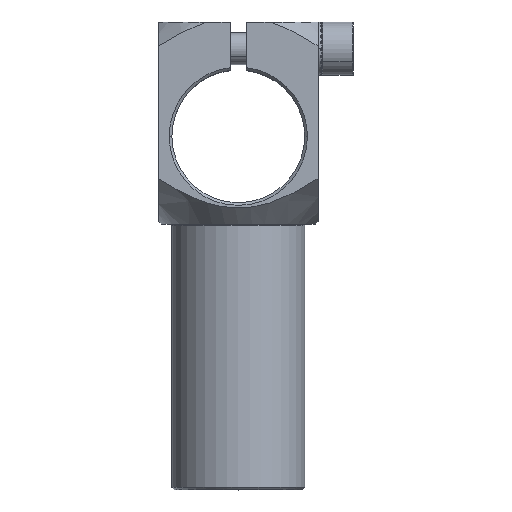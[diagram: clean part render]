
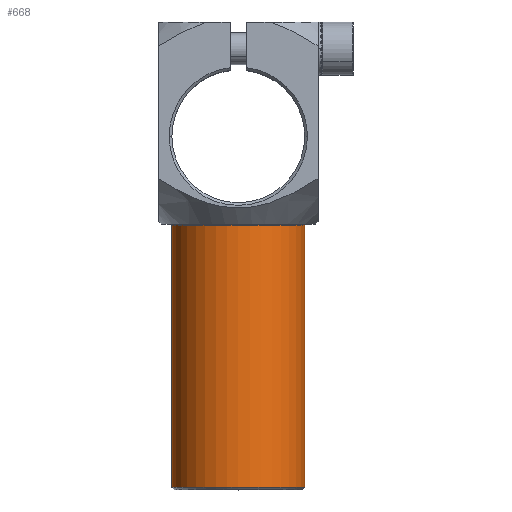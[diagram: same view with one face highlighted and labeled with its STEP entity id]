
A CAD part, top view. The second image highlights one B-rep face of the part: STEP entity #668.
In plain terms, the highlighted cylindrical face has radius 12.5 mm (diameter 25 mm), a partial arc.
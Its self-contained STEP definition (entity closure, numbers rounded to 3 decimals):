
#668 = ADVANCED_FACE ( 'NONE', ( #7207 ), #8938, .T. ) ;
#1168 = CARTESIAN_POINT ( 'NONE',  ( 12.5, 49.8, 0. ) ) ;
#1405 = ORIENTED_EDGE ( 'NONE', *, *, #3141, .T. ) ;
#1527 = DIRECTION ( 'NONE',  ( 0., -1., 0. ) ) ;
#1684 = EDGE_CURVE ( 'NONE', #8965, #5742, #7714, .T. ) ;
#2248 = CARTESIAN_POINT ( 'NONE',  ( -12.5, 49.8, 0. ) ) ;
#2641 = CARTESIAN_POINT ( 'NONE',  ( 0., 0.5, 0. ) ) ;
#2684 = VECTOR ( 'NONE', #2941, 1000. ) ;
#2900 = EDGE_LOOP ( 'NONE', ( #1405, #5996, #3461, #4711 ) ) ;
#2941 = DIRECTION ( 'NONE',  ( 0., 1., 0. ) ) ;
#2978 = AXIS2_PLACEMENT_3D ( 'NONE', #5886, #1527, #6621 ) ;
#3039 = EDGE_CURVE ( 'NONE', #6656, #5742, #4963, .T. ) ;
#3103 = DIRECTION ( 'NONE',  ( 0., 1., 0. ) ) ;
#3141 = EDGE_CURVE ( 'NONE', #8965, #4389, #8367, .T. ) ;
#3375 = DIRECTION ( 'NONE',  ( -1., 0., 0. ) ) ;
#3380 = EDGE_CURVE ( 'NONE', #4389, #6656, #4620, .T. ) ;
#3461 = ORIENTED_EDGE ( 'NONE', *, *, #3039, .T. ) ;
#4389 = VERTEX_POINT ( 'NONE', #4475 ) ;
#4475 = CARTESIAN_POINT ( 'NONE',  ( 12.5, 0.5, 0. ) ) ;
#4620 = LINE ( 'NONE', #8016, #2684 ) ;
#4711 = ORIENTED_EDGE ( 'NONE', *, *, #1684, .F. ) ;
#4963 = CIRCLE ( 'NONE', #2978, 12.5 ) ;
#5146 = CARTESIAN_POINT ( 'NONE',  ( -12.5, 88., 0. ) ) ;
#5742 = VERTEX_POINT ( 'NONE', #2248 ) ;
#5876 = DIRECTION ( 'NONE',  ( 0., 1., 0. ) ) ;
#5886 = CARTESIAN_POINT ( 'NONE',  ( 0., 49.8, 0. ) ) ;
#5996 = ORIENTED_EDGE ( 'NONE', *, *, #3380, .T. ) ;
#6621 = DIRECTION ( 'NONE',  ( -1., 0., 0. ) ) ;
#6656 = VERTEX_POINT ( 'NONE', #1168 ) ;
#6730 = CARTESIAN_POINT ( 'NONE',  ( 0., 88., 0. ) ) ;
#7207 = FACE_OUTER_BOUND ( 'NONE', #2900, .T. ) ;
#7714 = LINE ( 'NONE', #5146, #9451 ) ;
#7728 = DIRECTION ( 'NONE',  ( 0., 1., 0. ) ) ;
#7865 = AXIS2_PLACEMENT_3D ( 'NONE', #2641, #7728, #3375 ) ;
#8016 = CARTESIAN_POINT ( 'NONE',  ( 12.5, 88., 0. ) ) ;
#8181 = DIRECTION ( 'NONE',  ( -1., 0., 0. ) ) ;
#8367 = CIRCLE ( 'NONE', #7865, 12.5 ) ;
#8938 = CYLINDRICAL_SURFACE ( 'NONE', #9445, 12.5 ) ;
#8965 = VERTEX_POINT ( 'NONE', #9127 ) ;
#9127 = CARTESIAN_POINT ( 'NONE',  ( -12.5, 0.5, 0. ) ) ;
#9445 = AXIS2_PLACEMENT_3D ( 'NONE', #6730, #3103, #8181 ) ;
#9451 = VECTOR ( 'NONE', #5876, 1000. ) ;
